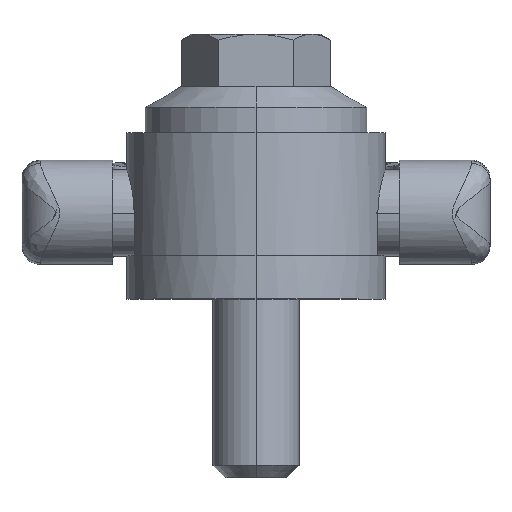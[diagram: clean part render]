
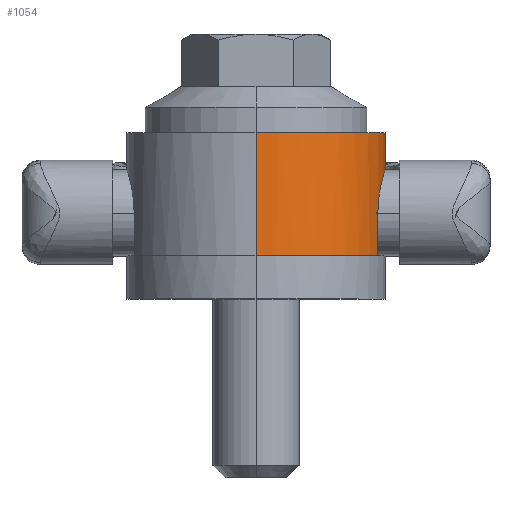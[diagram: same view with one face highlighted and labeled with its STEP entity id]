
A CAD part, top view. The second image highlights one B-rep face of the part: STEP entity #1054.
In plain terms, the highlighted cylindrical face has radius 21 mm (diameter 42 mm), a partial arc.
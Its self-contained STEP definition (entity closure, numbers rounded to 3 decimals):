
#634 = ORIENTED_EDGE ( 'NONE', *, *, #635, .T. ) ;
#635 = EDGE_CURVE ( 'NONE', #746, #636, #3155, .T. ) ;
#636 = VERTEX_POINT ( 'NONE', #3151 ) ;
#725 = ORIENTED_EDGE ( 'NONE', *, *, #726, .F. ) ;
#726 = EDGE_CURVE ( 'NONE', #727, #636, #5382, .T. ) ;
#727 = VERTEX_POINT ( 'NONE', #5445 ) ;
#728 = ORIENTED_EDGE ( 'NONE', *, *, #729, .F. ) ;
#729 = EDGE_CURVE ( 'NONE', #739, #727, #5444, .T. ) ;
#735 = EDGE_LOOP ( 'NONE', ( #736, #1101, #951, #1059, #744, #634, #725, #728 ) ) ;
#736 = ORIENTED_EDGE ( 'NONE', *, *, #737, .F. ) ;
#737 = EDGE_CURVE ( 'NONE', #738, #739, #5525, .T. ) ;
#738 = VERTEX_POINT ( 'NONE', #5520 ) ;
#739 = VERTEX_POINT ( 'NONE', #5519 ) ;
#740 = VERTEX_POINT ( 'NONE', #5518 ) ;
#744 = ORIENTED_EDGE ( 'NONE', *, *, #745, .T. ) ;
#745 = EDGE_CURVE ( 'NONE', #918, #746, #5510, .T. ) ;
#746 = VERTEX_POINT ( 'NONE', #5511 ) ;
#918 = VERTEX_POINT ( 'NONE', #6167 ) ;
#950 = EDGE_CURVE ( 'NONE', #738, #740, #6303, .T. ) ;
#951 = ORIENTED_EDGE ( 'NONE', *, *, #952, .F. ) ;
#952 = EDGE_CURVE ( 'NONE', #1058, #740, #6313, .T. ) ;
#1054 = ADVANCED_FACE ( 'NONE', ( #6557 ), #6668, .T. ) ;
#1058 = VERTEX_POINT ( 'NONE', #6667 ) ;
#1059 = ORIENTED_EDGE ( 'NONE', *, *, #1060, .T. ) ;
#1060 = EDGE_CURVE ( 'NONE', #1058, #918, #6647, .T. ) ;
#1101 = ORIENTED_EDGE ( 'NONE', *, *, #950, .T. ) ;
#3151 = CARTESIAN_POINT ( 'NONE',  ( 19.799, 7., -7. ) ) ;
#3152 = DIRECTION ( 'NONE',  ( 0., -1., 0. ) ) ;
#3153 = VECTOR ( 'NONE', #3152, 1000. ) ;
#3154 = CARTESIAN_POINT ( 'NONE',  ( 19.799, 34.5, -7. ) ) ;
#3155 = LINE ( 'NONE', #3154, #3153 ) ;
#5381 = AXIS2_PLACEMENT_3D ( 'NONE', #5448, #5447, #5446 ) ;
#5382 = CIRCLE ( 'NONE', #5381, 21. ) ;
#5441 = DIRECTION ( 'NONE',  ( 0., -1., 0. ) ) ;
#5442 = VECTOR ( 'NONE', #5441, 1000. ) ;
#5443 = CARTESIAN_POINT ( 'NONE',  ( 0., 34.5, -21. ) ) ;
#5444 = LINE ( 'NONE', #5443, #5442 ) ;
#5445 = CARTESIAN_POINT ( 'NONE',  ( 0., 7., -21. ) ) ;
#5446 = DIRECTION ( 'NONE',  ( 0., 0., -1. ) ) ;
#5447 = DIRECTION ( 'NONE',  ( 0., -1., 0. ) ) ;
#5448 = CARTESIAN_POINT ( 'NONE',  ( 0., 7., 0. ) ) ;
#5500 = CARTESIAN_POINT ( 'NONE',  ( 20.105, 17.515, 6.071 ) ) ;
#5501 = CARTESIAN_POINT ( 'NONE',  ( 20.038, 17.114, 6.286 ) ) ;
#5502 = CARTESIAN_POINT ( 'NONE',  ( 19.953, 16.48, 6.55 ) ) ;
#5503 = CARTESIAN_POINT ( 'NONE',  ( 19.927, 16.261, 6.629 ) ) ;
#5504 = CARTESIAN_POINT ( 'NONE',  ( 19.881, 15.82, 6.763 ) ) ;
#5505 = CARTESIAN_POINT ( 'NONE',  ( 19.862, 15.598, 6.819 ) ) ;
#5506 = CARTESIAN_POINT ( 'NONE',  ( 19.815, 14.923, 6.954 ) ) ;
#5507 = CARTESIAN_POINT ( 'NONE',  ( 19.799, 14.466, 7. ) ) ;
#5508 = CARTESIAN_POINT ( 'NONE',  ( 19.799, 14., 7. ) ) ;
#5510 = B_SPLINE_CURVE_WITH_KNOTS ( 'NONE', 3,
 ( #5508, #5507, #5506, #5505, #5504, #5503, #5502, #5501, #5500, #5593, #5592, #5591, #5590, #5589, #5588, #5587, #5586, #5585, #5584, #5583, #5582, #5581, #5580, #5579, #5578, #5577, #5576, #5575, #5574, #5573, #5572, #5571, #5570, #5569, #5568, #5567, #5566, #5565, #5564, #5563, #5562, #5561, #5560, #5559 ),
 .UNSPECIFIED., .F., .F.,
 ( 4, 2, 2, 2, 2, 2, 2, 2, 2, 2, 2, 2, 2, 2, 2, 2, 2, 2, 2, 2, 2, 4 ),
 ( 0., 0.001, 0.002, 0.003, 0.004, 0.005, 0.006, 0.007, 0.008, 0.009, 0.01, 0.011, 0.012, 0.014, 0.015, 0.016, 0.017, 0.018, 0.019, 0.021, 0.021, 0.022 ),
 .UNSPECIFIED. ) ;
#5511 = CARTESIAN_POINT ( 'NONE',  ( 19.799, 14., -7. ) ) ;
#5518 = CARTESIAN_POINT ( 'NONE',  ( 0., 7., 21. ) ) ;
#5519 = CARTESIAN_POINT ( 'NONE',  ( 0., 27., -21. ) ) ;
#5520 = CARTESIAN_POINT ( 'NONE',  ( 0., 27., 21. ) ) ;
#5521 = DIRECTION ( 'NONE',  ( 0., 0., 1. ) ) ;
#5522 = DIRECTION ( 'NONE',  ( 0., 1., 0. ) ) ;
#5523 = CARTESIAN_POINT ( 'NONE',  ( 0., 27., 0. ) ) ;
#5524 = AXIS2_PLACEMENT_3D ( 'NONE', #5523, #5522, #5521 ) ;
#5525 = CIRCLE ( 'NONE', #5524, 21. ) ;
#5559 = CARTESIAN_POINT ( 'NONE',  ( 19.799, 14., -7. ) ) ;
#5560 = CARTESIAN_POINT ( 'NONE',  ( 19.799, 14.233, -7. ) ) ;
#5561 = CARTESIAN_POINT ( 'NONE',  ( 19.803, 14.465, -6.988 ) ) ;
#5562 = CARTESIAN_POINT ( 'NONE',  ( 19.819, 14.927, -6.942 ) ) ;
#5563 = CARTESIAN_POINT ( 'NONE',  ( 19.832, 15.158, -6.907 ) ) ;
#5564 = CARTESIAN_POINT ( 'NONE',  ( 19.879, 15.837, -6.77 ) ) ;
#5565 = CARTESIAN_POINT ( 'NONE',  ( 19.925, 16.273, -6.636 ) ) ;
#5566 = CARTESIAN_POINT ( 'NONE',  ( 20.038, 17.115, -6.285 ) ) ;
#5567 = CARTESIAN_POINT ( 'NONE',  ( 20.107, 17.524, -6.065 ) ) ;
#5568 = CARTESIAN_POINT ( 'NONE',  ( 20.253, 18.279, -5.558 ) ) ;
#5569 = CARTESIAN_POINT ( 'NONE',  ( 20.33, 18.629, -5.271 ) ) ;
#5570 = CARTESIAN_POINT ( 'NONE',  ( 20.448, 19.112, -4.787 ) ) ;
#5571 = CARTESIAN_POINT ( 'NONE',  ( 20.487, 19.267, -4.617 ) ) ;
#5572 = CARTESIAN_POINT ( 'NONE',  ( 20.563, 19.556, -4.264 ) ) ;
#5573 = CARTESIAN_POINT ( 'NONE',  ( 20.6, 19.692, -4.081 ) ) ;
#5574 = CARTESIAN_POINT ( 'NONE',  ( 20.707, 20.07, -3.515 ) ) ;
#5575 = CARTESIAN_POINT ( 'NONE',  ( 20.773, 20.288, -3.111 ) ) ;
#5576 = CARTESIAN_POINT ( 'NONE',  ( 20.883, 20.642, -2.259 ) ) ;
#5577 = CARTESIAN_POINT ( 'NONE',  ( 20.926, 20.775, -1.821 ) ) ;
#5578 = CARTESIAN_POINT ( 'NONE',  ( 20.985, 20.954, -0.92 ) ) ;
#5579 = CARTESIAN_POINT ( 'NONE',  ( 21., 21., -0.453 ) ) ;
#5580 = CARTESIAN_POINT ( 'NONE',  ( 21., 21., 0.468 ) ) ;
#5581 = CARTESIAN_POINT ( 'NONE',  ( 20.985, 20.954, 0.924 ) ) ;
#5582 = CARTESIAN_POINT ( 'NONE',  ( 20.94, 20.818, 1.603 ) ) ;
#5583 = CARTESIAN_POINT ( 'NONE',  ( 20.921, 20.761, 1.829 ) ) ;
#5584 = CARTESIAN_POINT ( 'NONE',  ( 20.878, 20.626, 2.269 ) ) ;
#5585 = CARTESIAN_POINT ( 'NONE',  ( 20.854, 20.548, 2.484 ) ) ;
#5586 = CARTESIAN_POINT ( 'NONE',  ( 20.772, 20.286, 3.114 ) ) ;
#5587 = CARTESIAN_POINT ( 'NONE',  ( 20.707, 20.07, 3.516 ) ) ;
#5588 = CARTESIAN_POINT ( 'NONE',  ( 20.563, 19.558, 4.28 ) ) ;
#5589 = CARTESIAN_POINT ( 'NONE',  ( 20.486, 19.269, 4.63 ) ) ;
#5590 = CARTESIAN_POINT ( 'NONE',  ( 20.369, 18.789, 5.11 ) ) ;
#5591 = CARTESIAN_POINT ( 'NONE',  ( 20.33, 18.621, 5.263 ) ) ;
#5592 = CARTESIAN_POINT ( 'NONE',  ( 20.253, 18.268, 5.553 ) ) ;
#5593 = CARTESIAN_POINT ( 'NONE',  ( 20.215, 18.083, 5.69 ) ) ;
#6167 = CARTESIAN_POINT ( 'NONE',  ( 19.799, 14., 7. ) ) ;
#6302 = CARTESIAN_POINT ( 'NONE',  ( 0., 34.5, 21. ) ) ;
#6303 = LINE ( 'NONE', #6302, #6307 ) ;
#6306 = DIRECTION ( 'NONE',  ( 0., -1., 0. ) ) ;
#6307 = VECTOR ( 'NONE', #6306, 1000. ) ;
#6312 = AXIS2_PLACEMENT_3D ( 'NONE', #6320, #6319, #6318 ) ;
#6313 = CIRCLE ( 'NONE', #6312, 21. ) ;
#6318 = DIRECTION ( 'NONE',  ( 0., 0., -1. ) ) ;
#6319 = DIRECTION ( 'NONE',  ( 0., -1., 0. ) ) ;
#6320 = CARTESIAN_POINT ( 'NONE',  ( 0., 7., 0. ) ) ;
#6557 = FACE_OUTER_BOUND ( 'NONE', #735, .T. ) ;
#6581 = CARTESIAN_POINT ( 'NONE',  ( 0., 34.5, 0. ) ) ;
#6590 = AXIS2_PLACEMENT_3D ( 'NONE', #6581, #6600, #6599 ) ;
#6599 = DIRECTION ( 'NONE',  ( 0., 0., -1. ) ) ;
#6600 = DIRECTION ( 'NONE',  ( 0., -1., 0. ) ) ;
#6646 = CARTESIAN_POINT ( 'NONE',  ( 19.799, 34.5, 7. ) ) ;
#6647 = LINE ( 'NONE', #6646, #6654 ) ;
#6653 = DIRECTION ( 'NONE',  ( 0., 1., 0. ) ) ;
#6654 = VECTOR ( 'NONE', #6653, 1000. ) ;
#6667 = CARTESIAN_POINT ( 'NONE',  ( 19.799, 7., 7. ) ) ;
#6668 = CYLINDRICAL_SURFACE ( 'NONE', #6590, 21. ) ;
